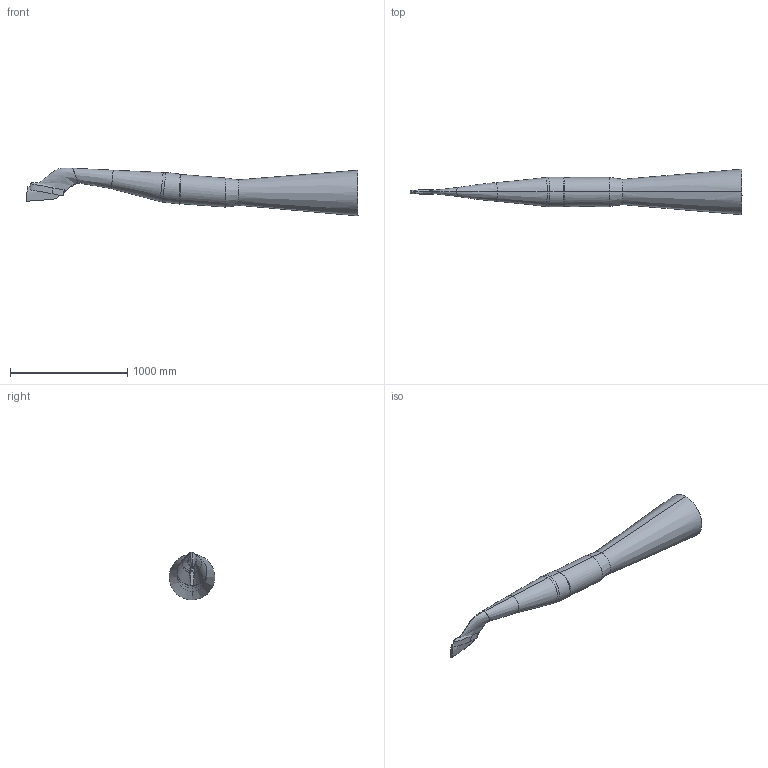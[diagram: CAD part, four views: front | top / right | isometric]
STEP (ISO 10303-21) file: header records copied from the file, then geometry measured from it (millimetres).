
FILE_DESCRIPTION(/* description */ (''),/* implementation_level */ '2;1');
FILE_NAME(/* name */ 'NTF_USS_Sting_noRotation_2024_08_15.stp',/* time_stamp */ '2024-08-15T17:51:14-04:00',/* author */ (''),/* organization */ (''),/* preprocessor_version */ 'ST-DEVELOPER v16.7',/* originating_system */ 'SIEMENS PLM Software NX 12.0',/* authorisation */ '');
FILE_SCHEMA (('AUTOMOTIVE_DESIGN { 1 0 10303 214 3 1 1 1 }'));
Products named in the file (1): sbry4308D06885fl
Bounding box: 2831.31 x 388.36 x 406.97 mm (x, y, z)
Volume: 129002282.3 mm3; surface area: 2231039.9 mm2
Topology: 2 solids, 2 shells, 33 faces, 75 edges, 42 vertices
Faces by surface type: bspline 31, cylinder 2
Entity records: 84019 total; most frequent: CARTESIAN_POINT 83356, ORIENTED_EDGE 142, EDGE_CURVE 71, B_SPLINE_CURVE_WITH_KNOTS 68, VERTEX_POINT 42, ADVANCED_FACE 33, FACE_OUTER_BOUND 33, EDGE_LOOP 33
